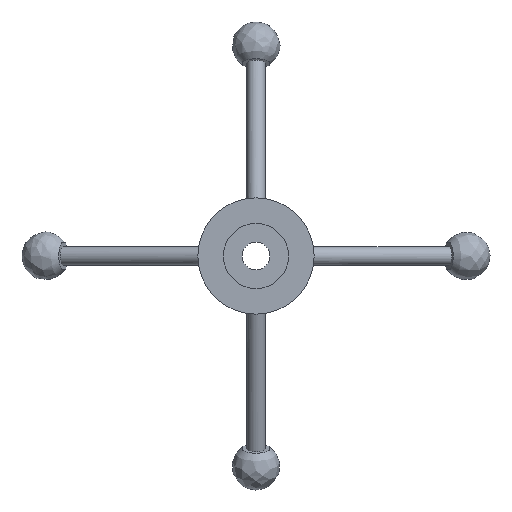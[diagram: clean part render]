
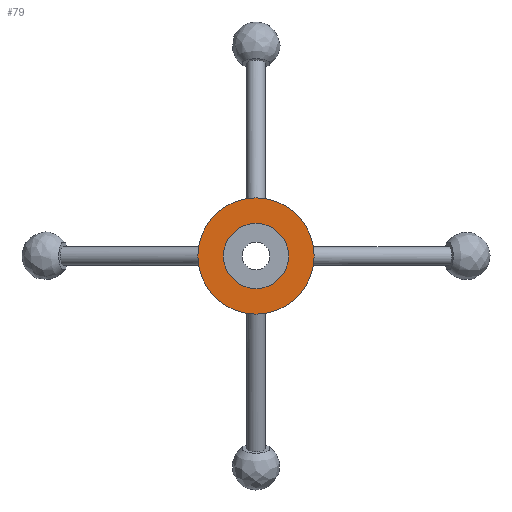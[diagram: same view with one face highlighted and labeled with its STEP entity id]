
A CAD part, front view. The second image highlights one B-rep face of the part: STEP entity #79.
In plain terms, the highlighted planar face has unit normal (0, -1, 0).
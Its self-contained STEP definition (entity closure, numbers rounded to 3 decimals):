
#79 = ADVANCED_FACE( '', ( #107, #108 ), #109, .F. );
#107 = FACE_BOUND( '', #202, .T. );
#108 = FACE_OUTER_BOUND( '', #203, .T. );
#109 = PLANE( '', #204 );
#202 = EDGE_LOOP( '', ( #370 ) );
#203 = EDGE_LOOP( '', ( #371 ) );
#204 = AXIS2_PLACEMENT_3D( '', #372, #373, #374 );
#370 = ORIENTED_EDGE( '', *, *, #446, .F. );
#371 = ORIENTED_EDGE( '', *, *, #447, .T. );
#372 = CARTESIAN_POINT( '', ( 25., 9., 0. ) );
#373 = DIRECTION( '', ( 0., 1., 0. ) );
#374 = DIRECTION( '', ( 0., 0., 1. ) );
#446 = EDGE_CURVE( '', #473, #473, #474, .T. );
#447 = EDGE_CURVE( '', #475, #475, #476, .T. );
#473 = VERTEX_POINT( '', #576 );
#474 = CIRCLE( '', #577, 14. );
#475 = VERTEX_POINT( '', #578 );
#476 = CIRCLE( '', #579, 25. );
#576 = CARTESIAN_POINT( '', ( 0., 9., -14. ) );
#577 = AXIS2_PLACEMENT_3D( '', #811, #812, #813 );
#578 = CARTESIAN_POINT( '', ( 0., 9., -25. ) );
#579 = AXIS2_PLACEMENT_3D( '', #814, #815, #816 );
#811 = CARTESIAN_POINT( '', ( 0., 9., 0. ) );
#812 = DIRECTION( '', ( 0., -1., 0. ) );
#813 = DIRECTION( '', ( 0., 0., -1. ) );
#814 = CARTESIAN_POINT( '', ( 0., 9., 0. ) );
#815 = DIRECTION( '', ( 0., -1., 0. ) );
#816 = DIRECTION( '', ( 0., 0., -1. ) );
